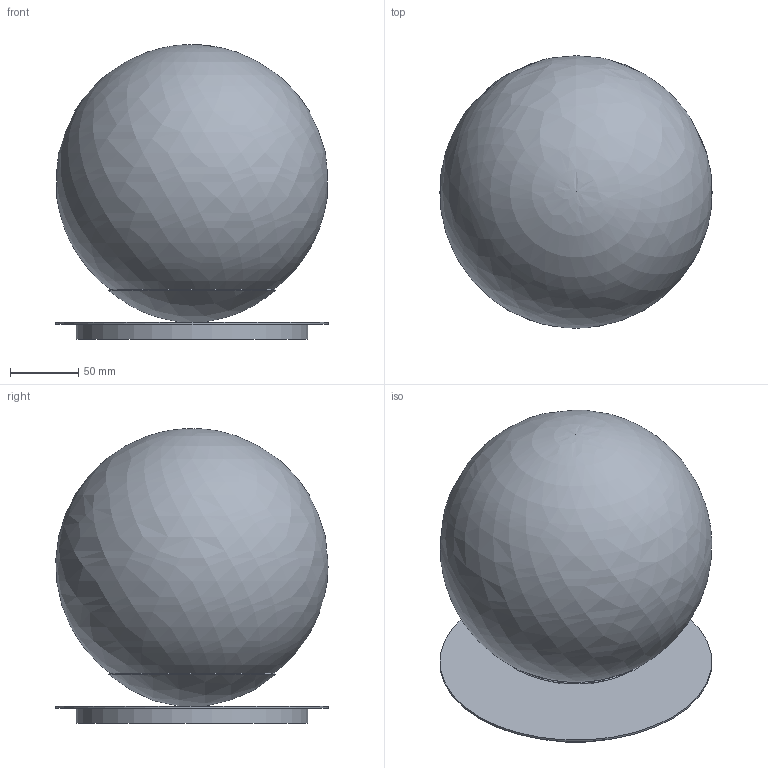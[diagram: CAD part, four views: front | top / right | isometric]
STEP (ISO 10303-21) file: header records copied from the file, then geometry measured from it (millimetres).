
FILE_DESCRIPTION(/* description */ (''),/* implementation_level */ '2;1');
FILE_NAME(/* name */ 'B649 Pulsar Wall Sconce 200.stp',/* time_stamp */ '2022-10-12T15:14:46+02:00',/* author */ ('Mariusz Awariusz'),/* organization */ (''),/* preprocessor_version */ 'ST-DEVELOPER v19.2',/* originating_system */ 'Autodesk Inventor 2023',/* authorisation */ '');
FILE_SCHEMA (('AUTOMOTIVE_DESIGN { 1 0 10303 214 3 1 1 }'));
Length unit declared in the file: millimetre
Products named in the file (1): B649 Pulsar Wall Sconce 200_jako część
Bounding box: 200 x 200.04 x 216.53 mm (x, y, z)
Volume: 546899.3 mm3; surface area: 379365.6 mm2
Topology: 4 solids, 4 shells, 15 faces, 25 edges, 16 vertices
Faces by surface type: plane 4, cylinder 4, torus 2, bspline 2, sphere 2, cone 1
Full cylindrical faces by diameter (mm): 16 x1, 80.221 x1, 170 x1, 200 x1
Entity records: 475 total; most frequent: CARTESIAN_POINT 143, DIRECTION 69, ORIENTED_EDGE 46, AXIS2_PLACEMENT_3D 32, EDGE_CURVE 23, CIRCLE 18, EDGE_LOOP 17, VERTEX_POINT 16
